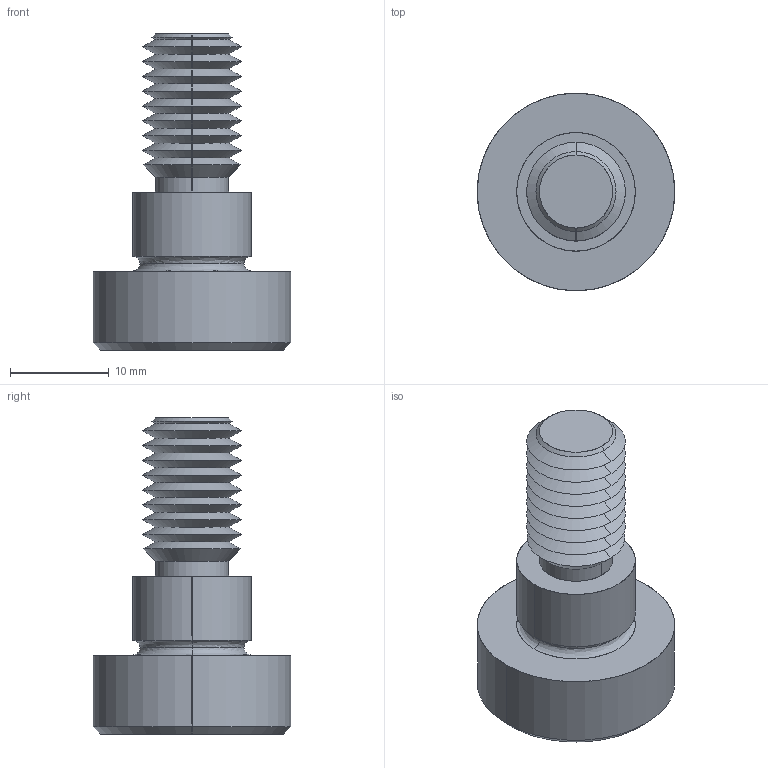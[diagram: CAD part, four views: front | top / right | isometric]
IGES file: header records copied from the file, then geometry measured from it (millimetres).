
Start section: SolidWorks IGES file using analytic representation for surfaces
Global section: file name: C:\Users\IanO\Documents\Temp Folder\GENERAL\SCREW REVISION\P0130_v2\P0130.T5_v2_20220106_IGES\P0130.120-008-T5.igs; native system: SolidWorks 2019; preprocessor: SolidWorks 2019; author: IanO; date: 220106.224411; units: millimetre
Bounding box: 20 x 20 x 32 mm (x, y, z)
Surface area: 2356 mm2 (no closed solid volume)
Topology: 0 solids, 0 shells, 76 faces, 564 edges, 562 vertices
Faces by surface type: revolution 56, bspline 20
